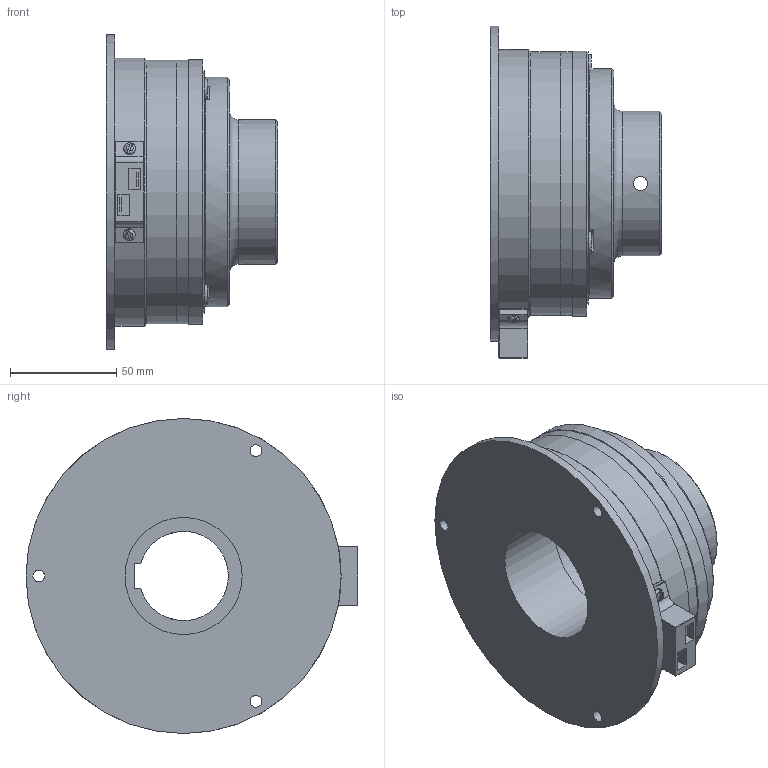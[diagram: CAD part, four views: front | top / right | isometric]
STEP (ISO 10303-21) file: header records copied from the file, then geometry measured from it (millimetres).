
FILE_DESCRIPTION(/* description */ (''),/* implementation_level */ '2;1');
FILE_NAME(/* name */ 'X:\INVENTOR\DISEGNI\08_Freni_Friz_Elettmag_Monodisco\08_28 EMFL_DF\EMFL_DF STEP\08_28_120_12 EMFL120_DF-C-ME_S@STEP.stp',/* time_stamp */ '2018-04-23T10:44:12+02:00',/* author */ ('stefano'),/* organization */ (''),/* preprocessor_version */ 'ST-DEVELOPER v17',/* originating_system */ 'Autodesk Inventor 2018',/* authorisation */ '');
FILE_SCHEMA (('AUTOMOTIVE_DESIGN { 1 0 10303 214 3 1 1 }'));
Length unit declared in the file: millimetre
Products named in the file (1): 08_28_120_12 EMFL120_DF-C-ME - Spina_Substitute_1
Bounding box: 80.5 x 155.93 x 148 mm (x, y, z)
Volume: 526532.2 mm3; surface area: 131832.2 mm2
Topology: 2 solids, 2 shells, 455 faces, 1260 edges, 798 vertices
Faces by surface type: cylinder 233, plane 144, torus 32, sphere 24, cone 22
Full cylindrical faces by diameter (mm): 2.2 x3, 3 x2, 4.917 x3, 5.5 x3, 5.6 x2, 6 x1, 6.1 x6, 6.647 x2, 7.5 x3, 10 x3, 10.5 x3, 12 x3, 55 x2, 59 x1, 68 x1, 77 x1, 86 x2, 104 x2, 108 x1, 110.5 x1, 124 x2, 124.5 x1, 148 x1
Entity records: 15583 total; most frequent: CARTESIAN_POINT 2873, DIRECTION 2833, ORIENTED_EDGE 2468, EDGE_CURVE 1234, AXIS2_PLACEMENT_3D 1195, VERTEX_POINT 798, CIRCLE 739, EDGE_LOOP 539
